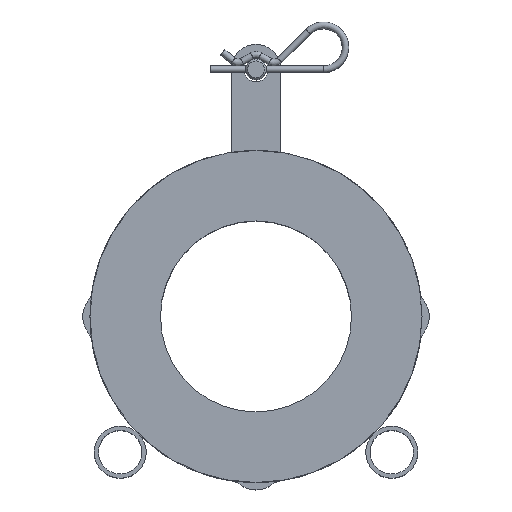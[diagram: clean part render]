
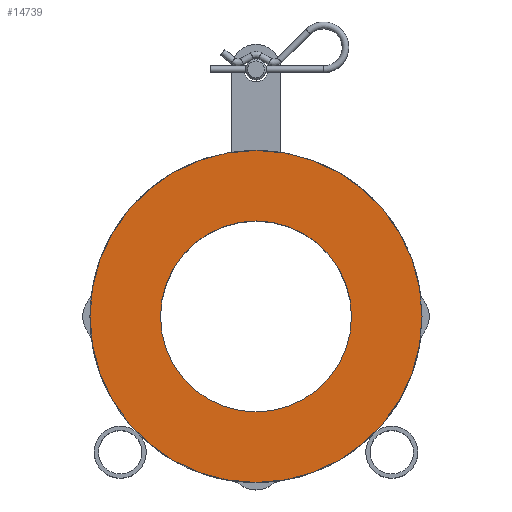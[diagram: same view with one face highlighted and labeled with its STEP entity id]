
A CAD part, top view. The second image highlights one B-rep face of the part: STEP entity #14739.
In plain terms, the highlighted planar face has unit normal (0, 0, 1).
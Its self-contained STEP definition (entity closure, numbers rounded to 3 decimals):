
#321=PLANE('',#15547);
#783=FACE_BOUND('',#2415,.T.);
#1535=FACE_OUTER_BOUND('',#2414,.T.);
#2414=EDGE_LOOP('',(#13367));
#2415=EDGE_LOOP('',(#13368));
#3587=CIRCLE('',#15530,46.);
#3597=CIRCLE('',#15546,80.);
#7058=VERTEX_POINT('',#34416);
#7068=VERTEX_POINT('',#34446);
#9183=EDGE_CURVE('',#7058,#7058,#3587,.T.);
#9197=EDGE_CURVE('',#7068,#7068,#3597,.T.);
#13367=ORIENTED_EDGE('',*,*,#9197,.F.);
#13368=ORIENTED_EDGE('',*,*,#9183,.T.);
#14739=ADVANCED_FACE('',(#1535,#783),#321,.F.);
#15530=AXIS2_PLACEMENT_3D('',#34417,#18034,#18035);
#15546=AXIS2_PLACEMENT_3D('',#34447,#18070,#18071);
#15547=AXIS2_PLACEMENT_3D('',#34453,#18075,#18076);
#18034=DIRECTION('center_axis',(0.,0.,-1.));
#18035=DIRECTION('ref_axis',(-1.,0.,0.));
#18070=DIRECTION('center_axis',(0.,0.,-1.));
#18071=DIRECTION('ref_axis',(-1.,0.,0.));
#18075=DIRECTION('center_axis',(0.,0.,-1.));
#18076=DIRECTION('ref_axis',(-1.,0.,0.));
#34416=CARTESIAN_POINT('',(-46.,0.,10.5));
#34417=CARTESIAN_POINT('Origin',(0.,0.,10.5));
#34446=CARTESIAN_POINT('',(80.,0.,10.5));
#34447=CARTESIAN_POINT('Origin',(0.,0.,10.5));
#34453=CARTESIAN_POINT('Origin',(0.,0.,10.5));
